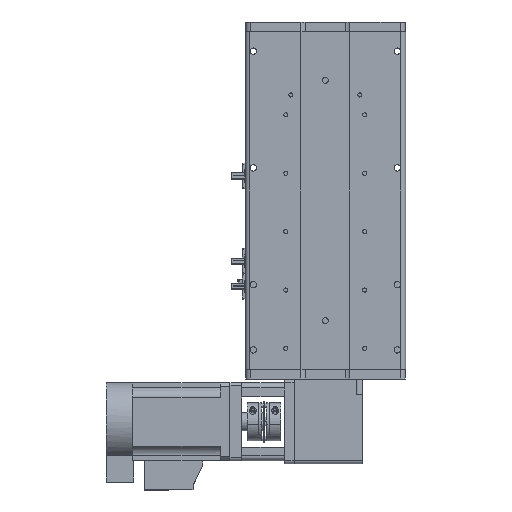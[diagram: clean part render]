
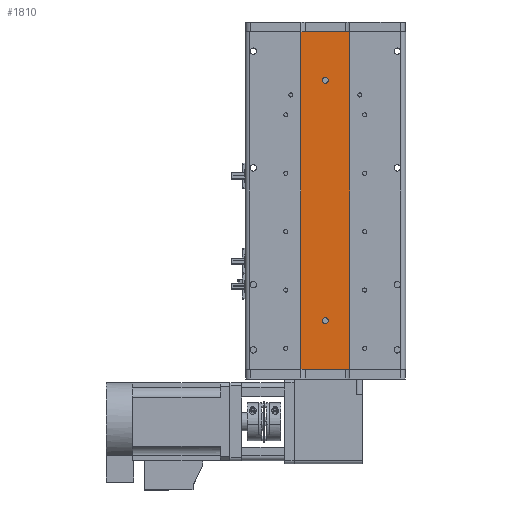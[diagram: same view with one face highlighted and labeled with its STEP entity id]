
A CAD part, front view. The second image highlights one B-rep face of the part: STEP entity #1810.
In plain terms, the highlighted planar face has unit normal (0, -1, 0).
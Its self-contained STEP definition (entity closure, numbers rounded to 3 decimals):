
#594 = ORIENTED_EDGE ( 'NONE', *, *, #3822, .F. ) ;
#836 = EDGE_CURVE ( 'NONE', #28658, #31625, #26799, .T. ) ;
#844 = LINE ( 'NONE', #31039, #36968 ) ;
#925 = CARTESIAN_POINT ( 'NONE',  ( 0., 1., 126.5 ) ) ;
#970 = CARTESIAN_POINT ( 'NONE',  ( 0., 1., -120.5 ) ) ;
#1683 = ORIENTED_EDGE ( 'NONE', *, *, #38626, .T. ) ;
#1810 = ADVANCED_FACE ( 'NONE', ( #42581, #41495, #32497 ), #31694, .F. ) ;
#1903 = DIRECTION ( 'NONE',  ( 0., 0., 1. ) ) ;
#2356 = LINE ( 'NONE', #24819, #19389 ) ;
#2591 = LINE ( 'NONE', #16488, #19620 ) ;
#3098 = ORIENTED_EDGE ( 'NONE', *, *, #27503, .F. ) ;
#3386 = AXIS2_PLACEMENT_3D ( 'NONE', #6733, #30471, #10148 ) ;
#3822 = EDGE_CURVE ( 'NONE', #28468, #37019, #2591, .T. ) ;
#4470 = DIRECTION ( 'NONE',  ( 0., 1., 0. ) ) ;
#6577 = AXIS2_PLACEMENT_3D ( 'NONE', #35127, #38547, #18268 ) ;
#6733 = CARTESIAN_POINT ( 'NONE',  ( 0., 1., -123.5 ) ) ;
#7319 = DIRECTION ( 'NONE',  ( 0., 0., -1. ) ) ;
#9620 = EDGE_CURVE ( 'NONE', #13212, #35096, #844, .T. ) ;
#10148 = DIRECTION ( 'NONE',  ( 0., 0., 1. ) ) ;
#10797 = AXIS2_PLACEMENT_3D ( 'NONE', #42550, #22228, #1903 ) ;
#11829 = CARTESIAN_POINT ( 'NONE',  ( -25., 1., 173.5 ) ) ;
#12034 = CIRCLE ( 'NONE', #36758, 3. ) ;
#12486 = EDGE_CURVE ( 'NONE', #24830, #22242, #22409, .T. ) ;
#13185 = DIRECTION ( 'NONE',  ( 0., 0., -1. ) ) ;
#13212 = VERTEX_POINT ( 'NONE', #11829 ) ;
#13457 = CARTESIAN_POINT ( 'NONE',  ( -25., 1., -173.5 ) ) ;
#15734 = CARTESIAN_POINT ( 'NONE',  ( 25., 1., -173.5 ) ) ;
#15946 = ORIENTED_EDGE ( 'NONE', *, *, #12486, .T. ) ;
#16313 = ORIENTED_EDGE ( 'NONE', *, *, #37336, .T. ) ;
#16488 = CARTESIAN_POINT ( 'NONE',  ( 25., 1., 173.5 ) ) ;
#16552 = CARTESIAN_POINT ( 'NONE',  ( 0., 1., 120.5 ) ) ;
#18268 = DIRECTION ( 'NONE',  ( 0., 0., 1. ) ) ;
#18681 = EDGE_CURVE ( 'NONE', #31625, #28658, #12034, .T. ) ;
#19389 = VECTOR ( 'NONE', #28391, 1000. ) ;
#19620 = VECTOR ( 'NONE', #13185, 1000. ) ;
#19848 = CARTESIAN_POINT ( 'NONE',  ( 0., 1., 123.5 ) ) ;
#22228 = DIRECTION ( 'NONE',  ( 0., 1., 0. ) ) ;
#22242 = VERTEX_POINT ( 'NONE', #39477 ) ;
#22409 = CIRCLE ( 'NONE', #41840, 3. ) ;
#22592 = CIRCLE ( 'NONE', #3386, 3. ) ;
#23186 = DIRECTION ( 'NONE',  ( 0., 0., 1. ) ) ;
#24773 = CARTESIAN_POINT ( 'NONE',  ( 0., 1., -123.5 ) ) ;
#24819 = CARTESIAN_POINT ( 'NONE',  ( 25., 1., 173.5 ) ) ;
#24830 = VERTEX_POINT ( 'NONE', #970 ) ;
#26799 = CIRCLE ( 'NONE', #10797, 3. ) ;
#27503 = EDGE_CURVE ( 'NONE', #13212, #28468, #2356, .T. ) ;
#28131 = EDGE_LOOP ( 'NONE', ( #16313, #15946 ) ) ;
#28210 = DIRECTION ( 'NONE',  ( 0., 0., 1. ) ) ;
#28391 = DIRECTION ( 'NONE',  ( 1., 0., 0. ) ) ;
#28468 = VERTEX_POINT ( 'NONE', #30176 ) ;
#28658 = VERTEX_POINT ( 'NONE', #925 ) ;
#30176 = CARTESIAN_POINT ( 'NONE',  ( 25., 1., 173.5 ) ) ;
#30471 = DIRECTION ( 'NONE',  ( 0., 1., 0. ) ) ;
#31039 = CARTESIAN_POINT ( 'NONE',  ( -25., 1., 173.5 ) ) ;
#31625 = VERTEX_POINT ( 'NONE', #16552 ) ;
#31694 = PLANE ( 'NONE',  #6577 ) ;
#32379 = EDGE_LOOP ( 'NONE', ( #1683, #594, #3098, #33214 ) ) ;
#32497 = FACE_OUTER_BOUND ( 'NONE', #32379, .T. ) ;
#33214 = ORIENTED_EDGE ( 'NONE', *, *, #9620, .T. ) ;
#33572 = LINE ( 'NONE', #15734, #42594 ) ;
#35096 = VERTEX_POINT ( 'NONE', #13457 ) ;
#35097 = ORIENTED_EDGE ( 'NONE', *, *, #836, .T. ) ;
#35127 = CARTESIAN_POINT ( 'NONE',  ( 25., 1., 173.5 ) ) ;
#36027 = DIRECTION ( 'NONE',  ( 1., 0., 0. ) ) ;
#36758 = AXIS2_PLACEMENT_3D ( 'NONE', #19848, #43514, #23186 ) ;
#36968 = VECTOR ( 'NONE', #7319, 1000. ) ;
#37019 = VERTEX_POINT ( 'NONE', #42064 ) ;
#37227 = EDGE_LOOP ( 'NONE', ( #39254, #35097 ) ) ;
#37336 = EDGE_CURVE ( 'NONE', #22242, #24830, #22592, .T. ) ;
#38547 = DIRECTION ( 'NONE',  ( 0., 1., 0. ) ) ;
#38626 = EDGE_CURVE ( 'NONE', #35096, #37019, #33572, .T. ) ;
#39254 = ORIENTED_EDGE ( 'NONE', *, *, #18681, .T. ) ;
#39477 = CARTESIAN_POINT ( 'NONE',  ( 0., 1., -126.5 ) ) ;
#41495 = FACE_BOUND ( 'NONE', #37227, .T. ) ;
#41840 = AXIS2_PLACEMENT_3D ( 'NONE', #24773, #4470, #28210 ) ;
#42064 = CARTESIAN_POINT ( 'NONE',  ( 25., 1., -173.5 ) ) ;
#42550 = CARTESIAN_POINT ( 'NONE',  ( 0., 1., 123.5 ) ) ;
#42581 = FACE_BOUND ( 'NONE', #28131, .T. ) ;
#42594 = VECTOR ( 'NONE', #36027, 1000. ) ;
#43514 = DIRECTION ( 'NONE',  ( 0., 1., 0. ) ) ;
